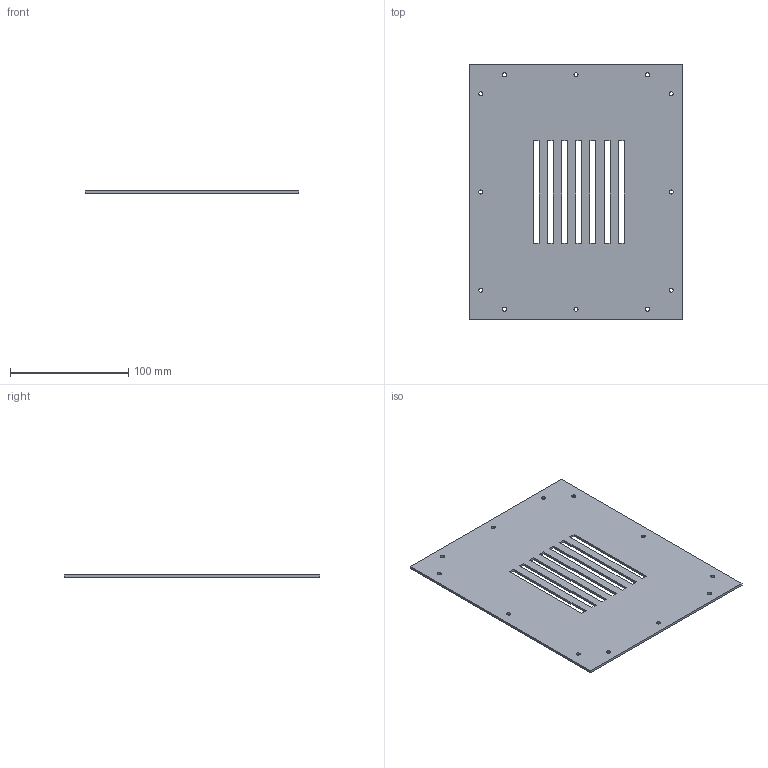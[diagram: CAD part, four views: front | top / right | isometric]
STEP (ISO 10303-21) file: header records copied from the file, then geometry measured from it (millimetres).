
FILE_DESCRIPTION(('FreeCAD Model'),'2;1');
FILE_NAME('Open CASCADE Shape Model','2026-06-08T10:03:13',('FreeCAD'),( 'FreeCAD'),'Open CASCADE STEP processor 7.8','FreeCAD','Unknown');
FILE_SCHEMA(('AUTOMOTIVE_DESIGN { 1 0 10303 214 1 1 1 1 }'));
Length unit declared in the file: millimetre
Products named in the file (1): Open CASCADE STEP translator 7.8 2
Bounding box: 180.9 x 216 x 2 mm (x, y, z)
Volume: 71882.9 mm3; surface area: 76286.1 mm2
Topology: 1 solids, 1 shells, 46 faces, 132 edges, 88 vertices
Faces by surface type: plane 34, cylinder 12
Full cylindrical faces by diameter (mm): 3.4 x12
Entity records: 1586 total; most frequent: CARTESIAN_POINT 267, ORIENTED_EDGE 264, DIRECTION 250, EDGE_CURVE 132, LINE 108, VECTOR 108, VERTEX_POINT 88, FACE_BOUND 84
